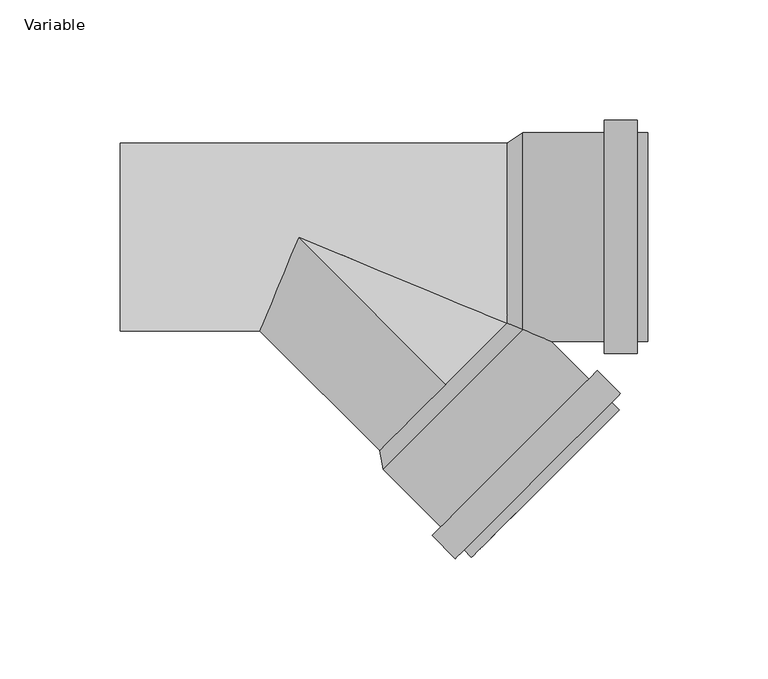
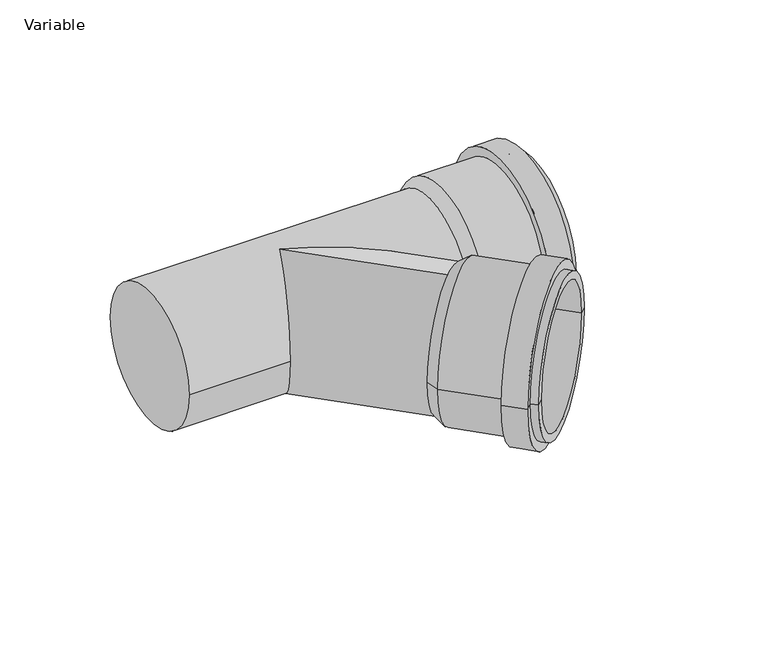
"""IFC4 building model written with IfcOpenShell, lengths in millimetres: pipe fitting geometry, AliaxisFR_Friaphon_Branch_FR : Variable."""

from ifc_helpers import new_model, si_unit, frame, origin, place, context, project, spatial, polyline, circle_curve, ellipse_curve, source, transform, mapped, element, save
from ifc_brep_helpers import plane_surface, cylinder_surface, revolved_surface, advanced_brep


def variable_341c4852(model_context):
    return source(origin(), model_context, "Body", "AdvancedBrep", [
        advanced_brep(
        [(71.842049, -133.2189176, 0.0), (133.2189176, -71.842049, 0.0), (130.1076477, -74.9533188, 0.0), (74.9533188, -130.1076477, 0.0), (55.5078823, -124.0972401, 0.0), (124.0972401, -55.5078823, 0.0), (133.7138923, -65.1245345, 0.0), (65.1245345, -133.7138923, 0.0), (59.1141269, -120.4909955, 0.0), (120.4909955, -59.1141269, 0.0), (35.2139177, -96.5907863, 0.0), (96.5907863, -35.2139177, 0.0), (88.8126117, -33.6582828, 0.0), (33.6582828, -88.8126117, 0.0), (68.7307791, -130.1076477, 0.0), (130.1076477, -68.7307791, 0.0)],
        [
            (0, 1, circle_curve(frame((102.5304833, -102.5304833, 0.0), z_axis=(0.7071067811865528, -0.7071067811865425, 0.0), x_axis=(0.7071067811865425, 0.7071067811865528, 0.0)), 43.4)),
            (1, 2),
            (2, 3, circle_curve(frame((102.5304833, -102.5304833, 0.0), z_axis=(-0.7071067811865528, 0.7071067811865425, 0.0), x_axis=(0.7071067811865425, 0.7071067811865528, 0.0)), 39.0)),
            (3, 0),
            (1, 0, circle_curve(frame((102.5304833, -102.5304833, 0.0), z_axis=(0.7071067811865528, -0.7071067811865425, 0.0), x_axis=(0.7071067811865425, 0.7071067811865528, 0.0)), 43.4)),
            (3, 2, circle_curve(frame((102.5304833, -102.5304833, 0.0), z_axis=(-0.7071067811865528, 0.7071067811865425, 0.0), x_axis=(0.7071067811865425, 0.7071067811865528, 0.0)), 39.0)),
            (4, 5, circle_curve(frame((89.8025612, -89.8025612, 0.0), z_axis=(0.7071067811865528, -0.7071067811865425, 0.0), x_axis=(0.7071067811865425, 0.7071067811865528, 0.0)), 48.5)),
            (5, 6),
            (6, 7, circle_curve(frame((99.4192134, -99.4192134, 0.0), z_axis=(-0.7071067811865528, 0.7071067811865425, 0.0), x_axis=(0.7071067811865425, 0.7071067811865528, 0.0)), 48.5)),
            (7, 4),
            (5, 4, circle_curve(frame((89.8025612, -89.8025612, 0.0), z_axis=(0.7071067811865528, -0.7071067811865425, 0.0), x_axis=(0.7071067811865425, 0.7071067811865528, 0.0)), 48.5)),
            (7, 6, circle_curve(frame((99.4192134, -99.4192134, 0.0), z_axis=(-0.7071067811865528, 0.7071067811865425, 0.0), x_axis=(0.7071067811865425, 0.7071067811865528, 0.0)), 48.5)),
            (8, 9, circle_curve(frame((89.8025612, -89.8025612, 0.0), z_axis=(0.7071067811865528, -0.7071067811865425, 0.0), x_axis=(0.7071067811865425, 0.7071067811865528, 0.0)), 43.4)),
            (9, 5),
            (4, 8),
            (9, 8, circle_curve(frame((89.8025612, -89.8025612, 0.0), z_axis=(0.7071067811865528, -0.7071067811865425, 0.0), x_axis=(0.7071067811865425, 0.7071067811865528, 0.0)), 43.4)),
            (10, 11, circle_curve(frame((65.902352, -65.902352, 0.0), z_axis=(0.7071067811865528, -0.7071067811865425, 0.0), x_axis=(0.7071067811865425, 0.7071067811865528, 0.0)), 43.4)),
            (11, 9),
            (8, 10),
            (11, 10, circle_curve(frame((65.902352, -65.902352, 0.0), z_axis=(0.7071067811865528, -0.7071067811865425, 0.0), x_axis=(0.7071067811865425, 0.7071067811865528, 0.0)), 43.4)),
            (2, 12),
            (12, 13, circle_curve(frame((61.2354473, -61.2354473, 0.0), z_axis=(-0.7071067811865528, 0.7071067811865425, 0.0), x_axis=(0.7071067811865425, 0.7071067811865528, 0.0)), 39.0)),
            (13, 3),
            (13, 12, circle_curve(frame((61.2354473, -61.2354473, 0.0), z_axis=(-0.7071067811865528, 0.7071067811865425, 0.0), x_axis=(0.7071067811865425, 0.7071067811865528, 0.0)), 39.0)),
            (12, 11),
            (10, 13),
            (14, 15, circle_curve(frame((99.4192134, -99.4192134, 0.0), z_axis=(0.7071067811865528, -0.7071067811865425, 0.0), x_axis=(0.7071067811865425, 0.7071067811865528, 0.0)), 43.4)),
            (15, 1),
            (0, 14),
            (15, 14, circle_curve(frame((99.4192134, -99.4192134, 0.0), z_axis=(0.7071067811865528, -0.7071067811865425, 0.0), x_axis=(0.7071067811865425, 0.7071067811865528, 0.0)), 43.4)),
            (6, 15),
            (14, 7),
        ],
        [
            plane_surface(frame((102.5304833, -102.5304833, 0.0), z_axis=(0.7071067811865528, -0.7071067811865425, 0.0), x_axis=(0.7071067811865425, 0.7071067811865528, 0.0))),
            cylinder_surface(frame((61.2354473, -61.2354473, 0.0), z_axis=(-0.7071067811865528, 0.7071067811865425, 0.0), x_axis=(0.7071067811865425, 0.7071067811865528, 0.0)), 48.5),
            plane_surface(frame((89.8025612, -89.8025612, 0.0), z_axis=(-0.7071067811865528, 0.7071067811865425, 0.0), x_axis=(0.7071067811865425, 0.7071067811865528, 0.0))),
            cylinder_surface(frame((61.2354473, -61.2354473, 0.0), z_axis=(-0.7071067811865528, 0.7071067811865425, 0.0), x_axis=(0.7071067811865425, 0.7071067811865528, 0.0)), 43.4),
            revolved_surface(polyline([(88.81261171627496, -33.658282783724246, 0.0), (130.10764776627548, -74.95331883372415, 0.0)]), (61.2354473, -61.2354473, 0.0), (-0.7071067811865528, 0.7071067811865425, 0.0)),
            revolved_surface(polyline([(96.5907863, -35.2139177, 0.0), (88.8126117, -33.6582828, 0.0)]), (61.2354473, -61.2354473, 0.0), (-0.7071067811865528, 0.7071067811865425, 0.0)),
            plane_surface(frame((99.4192134, -99.4192134, 0.0), z_axis=(0.7071067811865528, -0.7071067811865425, 0.0), x_axis=(0.7071067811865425, 0.7071067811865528, 0.0))),
        ],
        [
            (0, [[1, 2, 3, 4]]),
            (0, [[5, -4, 6, -2]]),
            (1, [[7, 8, 9, 10]]),
            (1, [[11, -10, 12, -8]]),
            (2, [[13, 14, -7, 15]]),
            (2, [[16, -15, -11, -14]]),
            (3, [[17, 18, -13, 19]]),
            (3, [[20, -19, -16, -18]]),
            (4, [[-3, 21, 22, 23]]),
            (4, [[-6, -23, 24, -21]]),
            (5, [[-22, 25, -17, 26]]),
            (5, [[-24, -26, -20, -25]]),
            (3, [[27, 28, -1, 29]]),
            (3, [[30, -29, -5, -28]]),
            (6, [[-9, 31, -27, 32]]),
            (6, [[-12, -32, -30, -31]]),
        ],
    ),
        advanced_brep(
        [(145.0, -43.4, 0.0), (145.0, 43.4, 0.0), (145.0, 39.0, 0.0), (145.0, -39.0, 0.0), (127.0, -48.5, 0.0), (127.0, 48.5, 0.0), (140.6, 48.5, 0.0), (140.6, -48.5, 0.0), (127.0, -43.4, 0.0), (127.0, 43.4, 0.0), (93.2, -43.4, 0.0), (93.2, 43.4, 0.0), (86.6, 39.0, 0.0), (86.6, -39.0, 0.0), (140.6, -43.4, 0.0), (140.6, 43.4, 0.0)],
        [
            (0, 1, circle_curve(frame((145.0, 0.0, 0.0), z_axis=(1.0, 0.0, 0.0), x_axis=(0.0, 1.0, 0.0)), 43.4)),
            (1, 2),
            (2, 3, circle_curve(frame((145.0, 0.0, 0.0), z_axis=(-1.0, 0.0, 0.0), x_axis=(0.0, 1.0, 0.0)), 39.0)),
            (3, 0),
            (1, 0, circle_curve(frame((145.0, 0.0, 0.0), z_axis=(1.0, 0.0, 0.0), x_axis=(0.0, 1.0, 0.0)), 43.4)),
            (3, 2, circle_curve(frame((145.0, 0.0, 0.0), z_axis=(-1.0, 0.0, 0.0), x_axis=(0.0, 1.0, 0.0)), 39.0)),
            (4, 5, circle_curve(frame((127.0, 0.0, 0.0), z_axis=(1.0, 0.0, 0.0), x_axis=(0.0, 1.0, 0.0)), 48.5)),
            (5, 6),
            (6, 7, circle_curve(frame((140.6, 0.0, 0.0), z_axis=(-1.0, 0.0, 0.0), x_axis=(0.0, 1.0, 0.0)), 48.5)),
            (7, 4),
            (5, 4, circle_curve(frame((127.0, 0.0, 0.0), z_axis=(1.0, 0.0, 0.0), x_axis=(0.0, 1.0, 0.0)), 48.5)),
            (7, 6, circle_curve(frame((140.6, 0.0, 0.0), z_axis=(-1.0, 0.0, 0.0), x_axis=(0.0, 1.0, 0.0)), 48.5)),
            (8, 9, circle_curve(frame((127.0, 0.0, 0.0), z_axis=(1.0, 0.0, 0.0), x_axis=(0.0, 1.0, 0.0)), 43.4)),
            (9, 5),
            (4, 8),
            (9, 8, circle_curve(frame((127.0, 0.0, 0.0), z_axis=(1.0, 0.0, 0.0), x_axis=(0.0, 1.0, 0.0)), 43.4)),
            (10, 11, circle_curve(frame((93.2, 0.0, 0.0), z_axis=(1.0, 0.0, 0.0), x_axis=(0.0, 1.0, 0.0)), 43.4)),
            (11, 9),
            (8, 10),
            (11, 10, circle_curve(frame((93.2, 0.0, 0.0), z_axis=(1.0, 0.0, 0.0), x_axis=(0.0, 1.0, 0.0)), 43.4)),
            (2, 12),
            (12, 13, circle_curve(frame((86.6, 0.0, 0.0), z_axis=(-1.0, 0.0, 0.0), x_axis=(0.0, 1.0, 0.0)), 39.0)),
            (13, 3),
            (13, 12, circle_curve(frame((86.6, 0.0, 0.0), z_axis=(-1.0, 0.0, 0.0), x_axis=(0.0, 1.0, 0.0)), 39.0)),
            (12, 11),
            (10, 13),
            (14, 15, circle_curve(frame((140.6, 0.0, 0.0), z_axis=(1.0, 0.0, 0.0), x_axis=(0.0, 1.0, 0.0)), 43.4)),
            (15, 1),
            (0, 14),
            (15, 14, circle_curve(frame((140.6, 0.0, 0.0), z_axis=(1.0, 0.0, 0.0), x_axis=(0.0, 1.0, 0.0)), 43.4)),
            (6, 15),
            (14, 7),
        ],
        [
            plane_surface(frame((145.0, 0.0, 0.0), z_axis=(1.0, 0.0, 0.0), x_axis=(0.0, 1.0, 0.0))),
            cylinder_surface(frame((86.6, 0.0, 0.0), z_axis=(-1.0, 0.0, 0.0), x_axis=(0.0, 1.0, 0.0)), 48.5),
            plane_surface(frame((127.0, 0.0, 0.0), z_axis=(-1.0, 0.0, 0.0), x_axis=(0.0, 1.0, 0.0))),
            cylinder_surface(frame((86.6, 0.0, 0.0), z_axis=(-1.0, 0.0, 0.0), x_axis=(0.0, 1.0, 0.0)), 43.4),
            revolved_surface(polyline([(86.6, 39.0, 0.0), (145.0, 39.0, 0.0)]), (86.6, 0.0, 0.0), (-1.0, 0.0, 0.0)),
            revolved_surface(polyline([(93.2, 43.4, 0.0), (86.6, 39.0, 0.0)]), (86.6, 0.0, 0.0), (-1.0, 0.0, 0.0)),
            plane_surface(frame((140.6, 0.0, 0.0), z_axis=(1.0, 0.0, 0.0), x_axis=(0.0, 1.0, 0.0))),
        ],
        [
            (0, [[1, 2, 3, 4]]),
            (0, [[5, -4, 6, -2]]),
            (1, [[7, 8, 9, 10]]),
            (1, [[11, -10, 12, -8]]),
            (2, [[13, 14, -7, 15]]),
            (2, [[16, -15, -11, -14]]),
            (3, [[17, 18, -13, 19]]),
            (3, [[20, -19, -16, -18]]),
            (4, [[-3, 21, 22, 23]]),
            (4, [[-6, -23, 24, -21]]),
            (5, [[-22, 25, -17, 26]]),
            (5, [[-24, -26, -20, -25]]),
            (3, [[27, 28, -1, 29]]),
            (3, [[30, -29, -5, -28]]),
            (6, [[-9, 31, -27, 32]]),
            (6, [[-12, -32, -30, -31]]),
        ],
    ),
        advanced_brep(
        [(91.0, -37.6934342, -10.0102458), (91.0, 39.0, 0.0), (91.0, -37.6934342, 10.0102458), (91.0, -39.0, 0.0), (-74.0, -39.0, 0.0), (-74.0, 39.0, 0.0), (0.0, 0.0, -39.0), (-16.1543289, -39.0, 0.0), (89.6934342, -39.0, 0.0), (0.0, 0.0, 39.0), (64.3467171, -64.3467171, 39.0), (64.3467171, -64.3467171, -39.0)],
        [
            (0, 1, circle_curve(frame((91.0, 0.0, 0.0), z_axis=(1.0, 0.0, 0.0), x_axis=(0.0, 1.0, 0.0)), 39.0)),
            (1, 2, circle_curve(frame((91.0, 0.0, 0.0), z_axis=(1.0, 0.0, 0.0), x_axis=(0.0, 1.0, 0.0)), 39.0)),
            (2, 0, ellipse_curve(frame((91.0, -91.0, 0.0), z_axis=(-1.0, 0.0, 0.0), x_axis=(0.0, 1.0, 0.0)), 55.1543289, 39.0)),
            (3, 0, circle_curve(frame((91.0, 0.0, 0.0), z_axis=(1.0, 0.0, 0.0), x_axis=(0.0, 1.0, 0.0)), 39.0)),
            (0, 2),
            (2, 3, circle_curve(frame((91.0, 0.0, 0.0), z_axis=(1.0, 0.0, 0.0), x_axis=(0.0, 1.0, 0.0)), 39.0)),
            (4, 5, circle_curve(frame((-74.0, 0.0, 0.0), z_axis=(-1.0, 0.0, 0.0), x_axis=(0.0, 1.0, 0.0)), 39.0)),
            (5, 4, circle_curve(frame((-74.0, 0.0, 0.0), z_axis=(-1.0, 0.0, 0.0), x_axis=(0.0, 1.0, 0.0)), 39.0)),
            (5, 1),
            (0, 6, ellipse_curve(frame((0.0, 0.0, 0.0), z_axis=(0.3826834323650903, 0.9238795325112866, 0.0), x_axis=(0.9238795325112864, -0.3826834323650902, 0.0)), 101.9119113, 39.0)),
            (6, 7, ellipse_curve(frame((0.0, 0.0, 0.0), z_axis=(-0.9238795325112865, 0.3826834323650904, 0.0), x_axis=(0.3826834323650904, 0.9238795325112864, 0.0)), 42.2132958, 39.0)),
            (7, 4),
            (3, 8),
            (8, 0, ellipse_curve(frame((128.6934342, 0.0, 0.0), z_axis=(0.707106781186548, -0.7071067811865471, 0.0), x_axis=(0.707106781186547, 0.707106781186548, 0.0)), 55.1543289, 39.0)),
            (7, 9, ellipse_curve(frame((0.0, 0.0, 0.0), z_axis=(-0.9238795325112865, 0.3826834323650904, 0.0), x_axis=(0.3826834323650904, 0.9238795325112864, 0.0)), 42.2132958, 39.0)),
            (9, 2, ellipse_curve(frame((0.0, 0.0, 0.0), z_axis=(0.3826834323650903, 0.9238795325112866, 0.0), x_axis=(0.9238795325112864, -0.3826834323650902, 0.0)), 101.9119113, 39.0)),
            (2, 8, ellipse_curve(frame((128.6934342, 0.0, 0.0), z_axis=(0.707106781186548, -0.7071067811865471, 0.0), x_axis=(0.707106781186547, 0.707106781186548, 0.0)), 55.1543289, 39.0)),
            (10, 11, circle_curve(frame((64.3467171, -64.3467171, 0.0), z_axis=(0.7071067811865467, -0.7071067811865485, 0.0), x_axis=(0.0, 0.0, 1.0)), 39.0)),
            (11, 0, circle_curve(frame((64.3467171, -64.3467171, 0.0), z_axis=(0.7071067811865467, -0.7071067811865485, 0.0), x_axis=(0.0, 0.0, 1.0)), 39.0)),
            (2, 10, circle_curve(frame((64.3467171, -64.3467171, 0.0), z_axis=(0.7071067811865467, -0.7071067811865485, 0.0), x_axis=(0.0, 0.0, 1.0)), 39.0)),
            (0, 2, circle_curve(frame((64.3467171, -64.3467171, 0.0), z_axis=(0.7071067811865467, -0.7071067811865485, 0.0), x_axis=(0.0, 0.0, 1.0)), 39.0)),
            (9, 10),
            (11, 6),
        ],
        [
            plane_surface(frame((91.0, 39.0, 0.0), z_axis=(1.0, 0.0, 0.0), x_axis=(0.0, 0.0, 1.0))),
            plane_surface(frame((-74.0, 39.0, 0.0), z_axis=(-1.0, 0.0, 0.0), x_axis=(0.0, 0.0, -1.0))),
            cylinder_surface(frame((-74.0, 0.0, 0.0), z_axis=(1.0, 0.0, 0.0), x_axis=(0.0, 1.0, 0.0)), 39.0),
            plane_surface(frame((64.3467171, -64.3467171, 39.0), z_axis=(0.707106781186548, -0.7071067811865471, 0.0), x_axis=(-0.7071067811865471, -0.707106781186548, 0.0))),
            cylinder_surface(frame((64.3467171, -64.3467171, 0.0), z_axis=(-0.7071067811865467, 0.7071067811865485, 0.0), x_axis=(0.0, 0.0, 1.0)), 39.0),
        ],
        [
            (0, [[1, 2, 3]]),
            (0, [[4, 5, 6]]),
            (1, [[7, 8]]),
            (2, [[-8, 9, -1, 10, 11, 12]]),
            (2, [[-4, 13, 14]]),
            (2, [[-7, -12, 15, 16, -2, -9]]),
            (2, [[-6, 17, -13]]),
            (3, [[18, 19, -14, -17, 20]]),
            (3, [[21, -5]]),
            (4, [[-21, -3]]),
            (4, [[22, -20, -16]]),
            (4, [[23, -10, -19]]),
            (4, [[-18, -22, -15, -11, -23]]),
        ],
    ),
    ])


if __name__ == "__main__":
    model = new_model("IFC4")
    model_context = context("Model", 3, world=origin())
    ifc_project = project(units=[si_unit("LENGTHUNIT", "METRE", prefix="MILLI")], contexts=[model_context])
    site = spatial("IfcSite", under=ifc_project)
    building = spatial("IfcBuilding", under=site)
    placement = place(None, origin())
    variable_shape = variable_341c4852(model_context)
    element("IfcPipeFitting", 1, ObjectType="AliaxisFR_Friaphon_Branch_FR : Variable", at=placement, inside=building, context=model_context, shape_type="MappedRepresentation", body=[
        mapped(variable_shape, transform((0.0, 0.0, 0.0), x_axis=(1.0, 0.0, 0.0), y_axis=(0.0, 1.0, 0.0), z_axis=(0.0, 0.0, 1.0))),
    ])
    save(model, "model.ifc")
